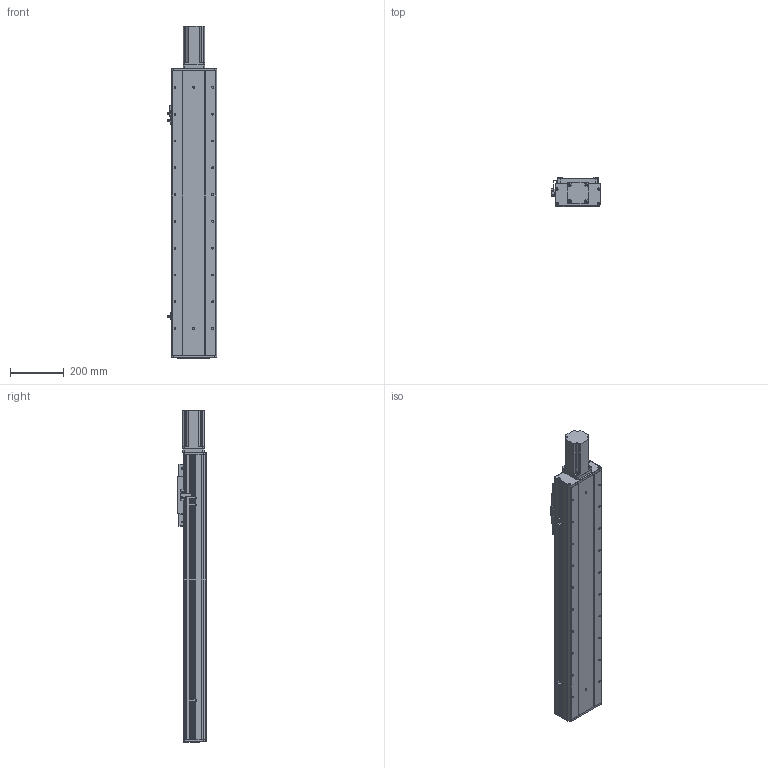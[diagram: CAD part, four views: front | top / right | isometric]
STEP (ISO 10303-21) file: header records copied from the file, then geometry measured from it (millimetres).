
FILE_DESCRIPTION (( 'STEP AP203' ), '1' );
FILE_NAME ('RY170F-L2020-300-MK.SLDASM_750.step', '2021-03-02T06:31:34', ( '盈信电脑' ), ( '东莞市道滘镇水果街19号' ), 'SwSTEP 2.0', 'SolidWorks 2012', '' );
FILE_SCHEMA (( 'CONFIG_CONTROL_DESIGN' ));
Length unit declared in the file: millimetre
Products named in the file (22): 覜茼ん674; RY170F-L2020-300-MK.SLDASM_750; 怢湛750W萇儂ㄗ80遺ㄘ; 侐源滅袉蝶; 滅袉蝶18-24; 750W萇儂梓袧蛌諉啣; 覜茼ん672; RY170F俋离覜茼え; RY170F-詩湍揤踡輸; RY170F-揤踡謫假蚾粣; RY100F-詩湍揤踡謫; 滅袉蝶18-10; RY170F-后盖板(铝件）; RY170F-直连前盖板(铝件）; 15; 侂狟400W侜督萇儂; RY170F-丝杆铝滑块连接板; RY170F-300眻蟀祥凄詩湍-MK_750; RY170F-滅鳥奻裔; RY170F-300眻蟀倰第奻裔啣-MK_750; RY170F-佪裝臏賑輸20蹟譫; RY170F-300眻蟀倰第菁釱-MK_750
Assembly tree (26 placements, depth 3):
  RY170F-L2020-300-MK.SLDASM_750
    RY170F-300眻蟀倰第菁釱-MK_750
    RY170F-300眻蟀祥凄詩湍-MK_750
    RY170F-300眻蟀倰第奻裔啣-MK_750  x2
    RY170F-滅鳥奻裔
    RY170F-佪裝臏賑輸20蹟譫
    RY170F-丝杆铝滑块连接板
    侂狟400W侜督萇儂
      15
    RY170F-直连前盖板(铝件）
    滅袉蝶18-10
    RY100F-詩湍揤踡謫
    RY170F-后盖板(铝件）
    覜茼ん672  x3
    RY170F俋离覜茼え
    RY170F-揤踡謫假蚾粣
    RY170F-詩湍揤踡輸  x2
    滅袉蝶18-24
    750W萇儂梓袧蛌諉啣
    怢湛750W萇儂ㄗ80遺ㄘ
    侐源滅袉蝶  x2
    覜茼ん674
Bounding box: 183.7 x 107 x 1239 mm (x, y, z)
Volume: 6685575.6 mm3; surface area: 2059138.1 mm2
Topology: 25 solids, 25 shells, 2260 faces, 6223 edges, 3980 vertices
Faces by surface type: cylinder 1005, plane 1001, cone 236, bspline 18
Entity records: 66227 total; most frequent: CARTESIAN_POINT 13051, DIRECTION 10881, ORIENTED_EDGE 10390, EDGE_CURVE 5195, AXIS2_PLACEMENT_3D 3876, VERTEX_POINT 3400, VECTOR 3129, LINE 3129
